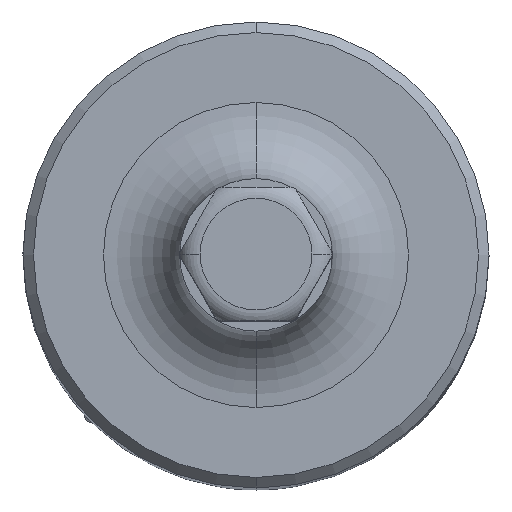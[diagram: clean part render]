
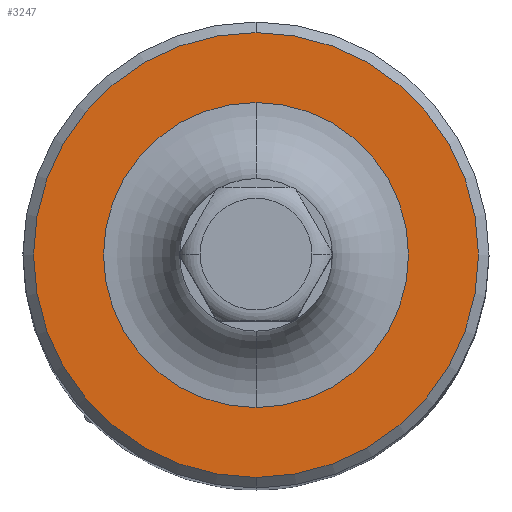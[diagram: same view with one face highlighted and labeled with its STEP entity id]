
A CAD part, top view. The second image highlights one B-rep face of the part: STEP entity #3247.
In plain terms, the highlighted planar face has unit normal (0, 0, 1).
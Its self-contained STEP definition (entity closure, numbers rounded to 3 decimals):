
#203 = CIRCLE ( 'NONE', #1280, 7.199 ) ;
#253 = ORIENTED_EDGE ( 'NONE', *, *, #7850, .T. ) ;
#581 = EDGE_LOOP ( 'NONE', ( #4131, #2540 ) ) ;
#844 = CARTESIAN_POINT ( 'NONE',  ( 4.853, -25.536, 56.619 ) ) ;
#1019 = VERTEX_POINT ( 'NONE', #4881 ) ;
#1052 = VERTEX_POINT ( 'NONE', #5753 ) ;
#1152 = DIRECTION ( 'NONE',  ( 0., 1., 0. ) ) ;
#1280 = AXIS2_PLACEMENT_3D ( 'NONE', #6914, #6043, #5170 ) ;
#1282 = EDGE_LOOP ( 'NONE', ( #253, #3206 ) ) ;
#1658 = VERTEX_POINT ( 'NONE', #3964 ) ;
#1705 = DIRECTION ( 'NONE',  ( 0., 1., 0. ) ) ;
#1965 = CIRCLE ( 'NONE', #6427, 7.199 ) ;
#2037 = DIRECTION ( 'NONE',  ( 0., 0., -1. ) ) ;
#2540 = ORIENTED_EDGE ( 'NONE', *, *, #5556, .T. ) ;
#2543 = DIRECTION ( 'NONE',  ( 0., 0., 1. ) ) ;
#2904 = CARTESIAN_POINT ( 'NONE',  ( 4.853, -25.536, 56.619 ) ) ;
#2912 = AXIS2_PLACEMENT_3D ( 'NONE', #4329, #2543, #1705 ) ;
#3154 = AXIS2_PLACEMENT_3D ( 'NONE', #5469, #4609, #3751 ) ;
#3205 = EDGE_CURVE ( 'NONE', #1019, #1052, #203, .T. ) ;
#3206 = ORIENTED_EDGE ( 'NONE', *, *, #6900, .T. ) ;
#3247 = ADVANCED_FACE ( 'NONE', ( #6670, #7775 ), #6352, .F. ) ;
#3751 = DIRECTION ( 'NONE',  ( 0., 1., 0. ) ) ;
#3964 = CARTESIAN_POINT ( 'NONE',  ( 4.853, -15.036, 56.619 ) ) ;
#4131 = ORIENTED_EDGE ( 'NONE', *, *, #3205, .T. ) ;
#4329 = CARTESIAN_POINT ( 'NONE',  ( 4.853, -25.536, 56.619 ) ) ;
#4609 = DIRECTION ( 'NONE',  ( 0., 0., -1. ) ) ;
#4703 = CARTESIAN_POINT ( 'NONE',  ( 4.853, -36.036, 56.619 ) ) ;
#4881 = CARTESIAN_POINT ( 'NONE',  ( 4.853, -18.337, 56.619 ) ) ;
#5170 = DIRECTION ( 'NONE',  ( 0., 1., 0. ) ) ;
#5469 = CARTESIAN_POINT ( 'NONE',  ( 4.853, -25.536, 56.619 ) ) ;
#5556 = EDGE_CURVE ( 'NONE', #1052, #1019, #1965, .T. ) ;
#5619 = CIRCLE ( 'NONE', #2912, 10.5 ) ;
#5753 = CARTESIAN_POINT ( 'NONE',  ( 4.853, -32.736, 56.619 ) ) ;
#6043 = DIRECTION ( 'NONE',  ( 0., 0., -1. ) ) ;
#6352 = PLANE ( 'NONE',  #3154 ) ;
#6427 = AXIS2_PLACEMENT_3D ( 'NONE', #2904, #2037, #1152 ) ;
#6545 = AXIS2_PLACEMENT_3D ( 'NONE', #844, #7648, #6760 ) ;
#6670 = FACE_BOUND ( 'NONE', #581, .T. ) ;
#6708 = VERTEX_POINT ( 'NONE', #4703 ) ;
#6760 = DIRECTION ( 'NONE',  ( 0., 1., 0. ) ) ;
#6900 = EDGE_CURVE ( 'NONE', #6708, #1658, #5619, .T. ) ;
#6914 = CARTESIAN_POINT ( 'NONE',  ( 4.853, -25.536, 56.619 ) ) ;
#7648 = DIRECTION ( 'NONE',  ( 0., 0., 1. ) ) ;
#7775 = FACE_OUTER_BOUND ( 'NONE', #1282, .T. ) ;
#7850 = EDGE_CURVE ( 'NONE', #1658, #6708, #8021, .T. ) ;
#8021 = CIRCLE ( 'NONE', #6545, 10.5 ) ;
